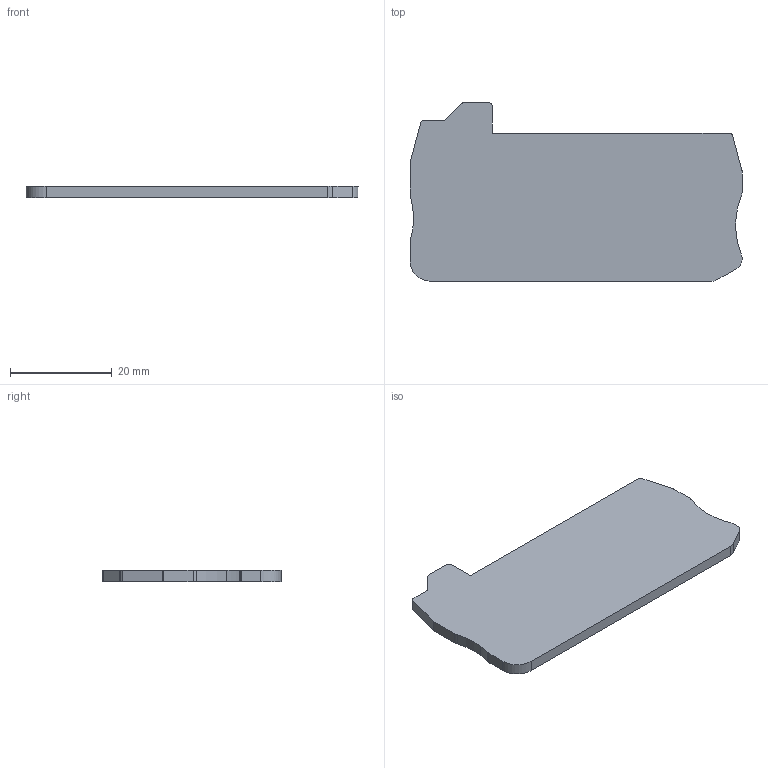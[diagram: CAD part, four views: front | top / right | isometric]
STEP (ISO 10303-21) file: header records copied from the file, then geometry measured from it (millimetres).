
FILE_DESCRIPTION(('OneSpaceDesigner STEP Export'),'2;1');
FILE_NAME('3033045_d_stu25_twin_select.stp','2004-10-19T 7:26:00',(''),(''),'OneSpace Designer STEP processor (Jan. 2003) for AP203(Solid Model)','OneSpace Designer 12.01C 26-Mar-2004 (C) CoCreate Software GmbH','');
FILE_SCHEMA(('CONFIG_CONTROL_DESIGN'));
Length unit declared in the file: millimetre
Products named in the file (2): 3033045_d_stu25_twin_select
Assembly tree (1 placements, depth 2):
  3033045_d_stu25_twin_select
    3033045_d_stu25_twin_select
Bounding box: 65.25 x 35.05 x 2.2 mm (x, y, z)
Volume: 4224.3 mm3; surface area: 4259.6 mm2
Topology: 1 solids, 1 shells, 34 faces, 96 edges, 64 vertices
Faces by surface type: cylinder 19, plane 15
Entity records: 1567 total; most frequent: ORIENTED_EDGE 192, DIRECTION 188, CARTESIAN_POINT 187, EDGE_CURVE 96, AXIS2_PLACEMENT_3D 65, VERTEX_POINT 64, VECTOR 58, LINE 58
